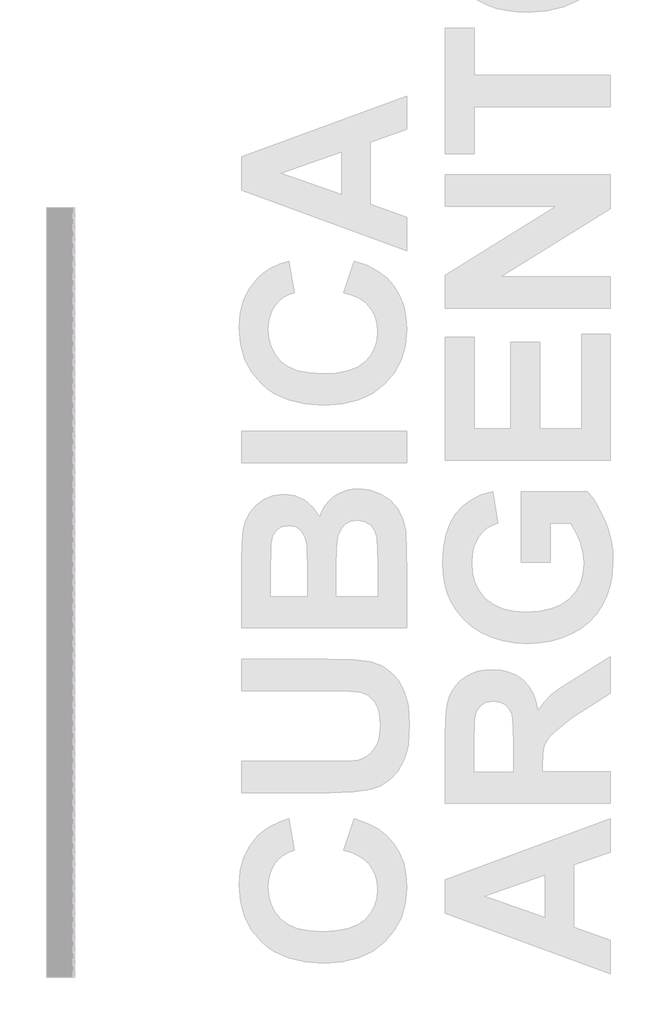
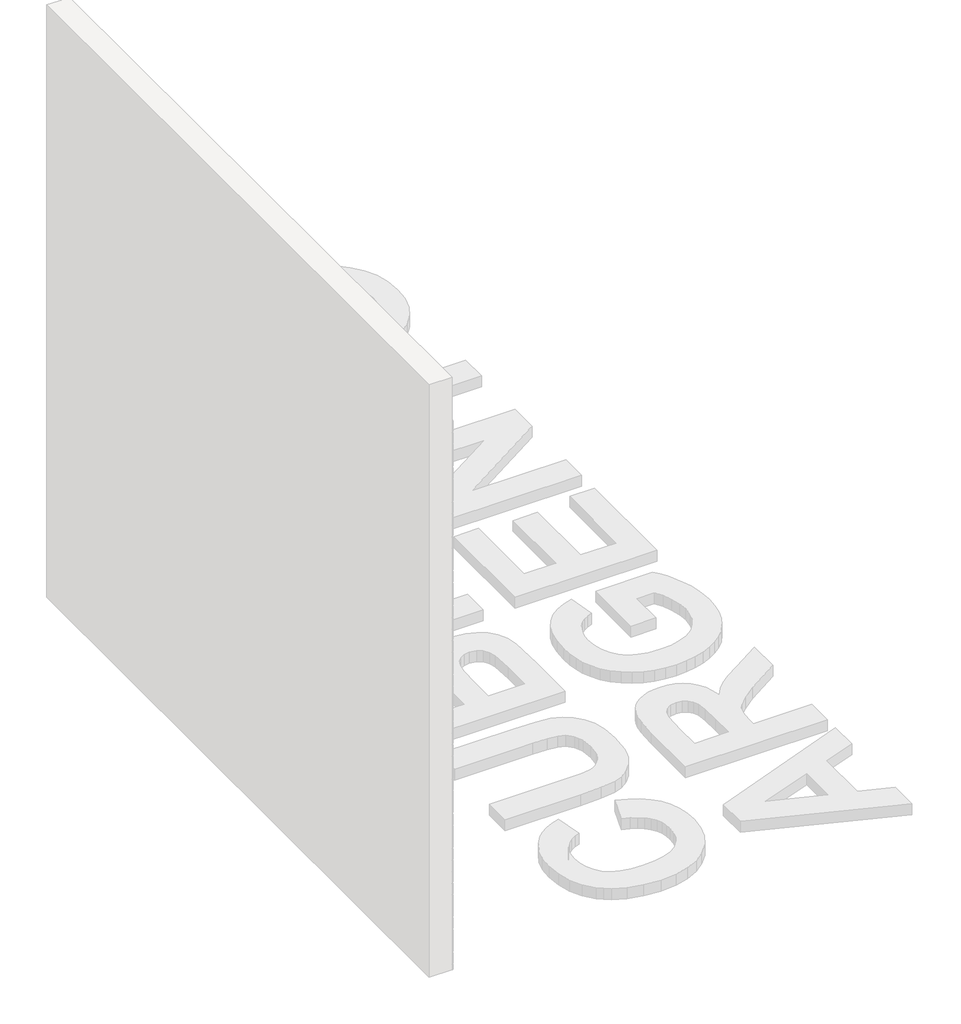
# One storey, part 5 of 121: 145 proxies.
"""IFC4 building model written with IfcOpenShell, lengths in millimetres."""

from ifc_helpers import new_model, si_unit, origin, place, context, project, spatial, transform, mapped, element, save
from components import generic_models_b2b2c5c1, generic_models_9bf73f6f, generic_models_5d175859, generic_models_95f85f1d

model = new_model("IFC4")

# Units and contexts
model_context = context("Model", 3, world=origin())
ifc_project = project(units=[si_unit("LENGTHUNIT", "METRE", prefix="MILLI")], contexts=[model_context])

# Site, building, storey
site = spatial("IfcSite", under=ifc_project)
building = spatial("IfcBuilding", under=site)
storey = spatial("IfcBuildingStorey", under=building, Name="PORTOBELLO - SHOWROOM", Elevation=0.0)

# Proxies
placement = place(None, origin())
generic_models_shape = generic_models_b2b2c5c1(model_context)
element("IfcBuildingElementProxy", 1, Name="PBSHOP - CUBICA ARGENTO 4,8X8,3 : CUBICA ARGENTO - POSIÇÃO 01", ObjectType="PBSHOP - CUBICA ARGENTO 4,8X8,3 : CUBICA ARGENTO - POSIÇÃO 01", at=placement, inside=storey, context=model_context, shape_type="MappedRepresentation", body=[
    mapped(generic_models_shape, transform((150369.5341846, -5994.6755428, 118.3568052), x_axis=(0.0, 1.0, 0.0), y_axis=(0.0, 0.0, 1.0), z_axis=(1.0, 0.0, 0.0))),
])
element("IfcBuildingElementProxy", 2, Name="PBSHOP - CUBICA ARGENTO 4,8X8,3 : CUBICA ARGENTO - POSIÇÃO 01", ObjectType="PBSHOP - CUBICA ARGENTO 4,8X8,3 : CUBICA ARGENTO - POSIÇÃO 01", at=placement, inside=storey, context=model_context, shape_type="MappedRepresentation", body=[
    mapped(generic_models_shape, transform((150369.5341846, -5903.8362736, 118.3568052), x_axis=(0.0, 1.0, 0.0), y_axis=(0.0, 0.0, 1.0), z_axis=(1.0, 0.0, 0.0))),
])
element("IfcBuildingElementProxy", 3, Name="PBSHOP - CUBICA ARGENTO 4,8X8,3 : CUBICA ARGENTO - POSIÇÃO 01", ObjectType="PBSHOP - CUBICA ARGENTO 4,8X8,3 : CUBICA ARGENTO - POSIÇÃO 01", at=placement, inside=storey, context=model_context, shape_type="MappedRepresentation", body=[
    mapped(generic_models_shape, transform((150369.5341846, -5812.9970043, 118.3568052), x_axis=(0.0, 1.0, 0.0), y_axis=(0.0, 0.0, 1.0), z_axis=(1.0, 0.0, 0.0))),
])
element("IfcBuildingElementProxy", 4, Name="PBSHOP - CUBICA ARGENTO 4,8X8,3 : CUBICA ARGENTO - POSIÇÃO 01", ObjectType="PBSHOP - CUBICA ARGENTO 4,8X8,3 : CUBICA ARGENTO - POSIÇÃO 01", at=placement, inside=storey, context=model_context, shape_type="MappedRepresentation", body=[
    mapped(generic_models_shape, transform((150369.5341846, -5722.1577351, 118.3568052), x_axis=(0.0, 1.0, 0.0), y_axis=(0.0, 0.0, 1.0), z_axis=(1.0, 0.0, 0.0))),
])
element("IfcBuildingElementProxy", 5, Name="PBSHOP - CUBICA ARGENTO 4,8X8,3 : CUBICA ARGENTO - POSIÇÃO 01", ObjectType="PBSHOP - CUBICA ARGENTO 4,8X8,3 : CUBICA ARGENTO - POSIÇÃO 01", at=placement, inside=storey, context=model_context, shape_type="MappedRepresentation", body=[
    mapped(generic_models_shape, transform((150369.5341846, -5631.3184659, 118.3568052), x_axis=(0.0, 1.0, 0.0), y_axis=(0.0, 0.0, 1.0), z_axis=(1.0, 0.0, 0.0))),
])
element("IfcBuildingElementProxy", 6, Name="PBSHOP - CUBICA ARGENTO 4,8X8,3 : CUBICA ARGENTO - POSIÇÃO 01", ObjectType="PBSHOP - CUBICA ARGENTO 4,8X8,3 : CUBICA ARGENTO - POSIÇÃO 01", at=placement, inside=storey, context=model_context, shape_type="MappedRepresentation", body=[
    mapped(generic_models_shape, transform((150369.5341846, -5540.4791966, 118.3568052), x_axis=(0.0, 1.0, 0.0), y_axis=(0.0, 0.0, 1.0), z_axis=(1.0, 0.0, 0.0))),
])
element("IfcBuildingElementProxy", 7, Name="PBSHOP - CUBICA ARGENTO 4,8X8,3 : CUBICA ARGENTO - POSIÇÃO 01", ObjectType="PBSHOP - CUBICA ARGENTO 4,8X8,3 : CUBICA ARGENTO - POSIÇÃO 01", at=placement, inside=storey, context=model_context, shape_type="MappedRepresentation", body=[
    mapped(generic_models_shape, transform((150369.5341846, -5449.6399274, 118.3568052), x_axis=(0.0, 1.0, 0.0), y_axis=(0.0, 0.0, 1.0), z_axis=(1.0, 0.0, 0.0))),
])
element("IfcBuildingElementProxy", 8, Name="PBSHOP - CUBICA ARGENTO 4,8X8,3 : CUBICA ARGENTO - POSIÇÃO 01", ObjectType="PBSHOP - CUBICA ARGENTO 4,8X8,3 : CUBICA ARGENTO - POSIÇÃO 01", at=placement, inside=storey, context=model_context, shape_type="MappedRepresentation", body=[
    mapped(generic_models_shape, transform((150369.5341846, -5358.8006581, 118.3568052), x_axis=(0.0, 1.0, 0.0), y_axis=(0.0, 0.0, 1.0), z_axis=(1.0, 0.0, 0.0))),
])
element("IfcBuildingElementProxy", 9, Name="PBSHOP - CUBICA ARGENTO 4,8X8,3 : CUBICA ARGENTO - POSIÇÃO 01", ObjectType="PBSHOP - CUBICA ARGENTO 4,8X8,3 : CUBICA ARGENTO - POSIÇÃO 01", at=placement, inside=storey, context=model_context, shape_type="MappedRepresentation", body=[
    mapped(generic_models_shape, transform((150369.5341846, -5267.9613889, 118.3568052), x_axis=(0.0, 1.0, 0.0), y_axis=(0.0, 0.0, 1.0), z_axis=(1.0, 0.0, 0.0))),
])
element("IfcBuildingElementProxy", 10, Name="PBSHOP - CUBICA ARGENTO 4,8X8,3 : CUBICA ARGENTO - POSIÇÃO 01", ObjectType="PBSHOP - CUBICA ARGENTO 4,8X8,3 : CUBICA ARGENTO - POSIÇÃO 01", at=placement, inside=storey, context=model_context, shape_type="MappedRepresentation", body=[
    mapped(generic_models_shape, transform((150369.5341846, -5177.1221196, 118.3568052), x_axis=(0.0, 1.0, 0.0), y_axis=(0.0, 0.0, 1.0), z_axis=(1.0, 0.0, 0.0))),
])
element("IfcBuildingElementProxy", 11, Name="PBSHOP - CUBICA ARGENTO 4,8X8,3 : CUBICA ARGENTO - POSIÇÃO 01", ObjectType="PBSHOP - CUBICA ARGENTO 4,8X8,3 : CUBICA ARGENTO - POSIÇÃO 01", at=placement, inside=storey, context=model_context, shape_type="MappedRepresentation", body=[
    mapped(generic_models_shape, transform((150369.5341846, -5086.2828504, 118.3568052), x_axis=(0.0, 1.0, 0.0), y_axis=(0.0, 0.0, 1.0), z_axis=(1.0, 0.0, 0.0))),
])
element("IfcBuildingElementProxy", 12, Name="PBSHOP - CUBICA ARGENTO 4,8X8,3 : CUBICA ARGENTO - POSIÇÃO 01", ObjectType="PBSHOP - CUBICA ARGENTO 4,8X8,3 : CUBICA ARGENTO - POSIÇÃO 01", at=placement, inside=storey, context=model_context, shape_type="MappedRepresentation", body=[
    mapped(generic_models_shape, transform((150369.5341846, -5949.2559082, 197.2914436), x_axis=(0.0, 1.0, 0.0), y_axis=(0.0, 0.0, 1.0), z_axis=(1.0, 0.0, 0.0))),
])
element("IfcBuildingElementProxy", 13, Name="PBSHOP - CUBICA ARGENTO 4,8X8,3 : CUBICA ARGENTO - POSIÇÃO 01", ObjectType="PBSHOP - CUBICA ARGENTO 4,8X8,3 : CUBICA ARGENTO - POSIÇÃO 01", at=placement, inside=storey, context=model_context, shape_type="MappedRepresentation", body=[
    mapped(generic_models_shape, transform((150369.5341846, -5858.416639, 197.2914436), x_axis=(0.0, 1.0, 0.0), y_axis=(0.0, 0.0, 1.0), z_axis=(1.0, 0.0, 0.0))),
])
element("IfcBuildingElementProxy", 14, Name="PBSHOP - CUBICA ARGENTO 4,8X8,3 : CUBICA ARGENTO - POSIÇÃO 01", ObjectType="PBSHOP - CUBICA ARGENTO 4,8X8,3 : CUBICA ARGENTO - POSIÇÃO 01", at=placement, inside=storey, context=model_context, shape_type="MappedRepresentation", body=[
    mapped(generic_models_shape, transform((150369.5341846, -5767.5773697, 197.2914436), x_axis=(0.0, 1.0, 0.0), y_axis=(0.0, 0.0, 1.0), z_axis=(1.0, 0.0, 0.0))),
])
element("IfcBuildingElementProxy", 15, Name="PBSHOP - CUBICA ARGENTO 4,8X8,3 : CUBICA ARGENTO - POSIÇÃO 01", ObjectType="PBSHOP - CUBICA ARGENTO 4,8X8,3 : CUBICA ARGENTO - POSIÇÃO 01", at=placement, inside=storey, context=model_context, shape_type="MappedRepresentation", body=[
    mapped(generic_models_shape, transform((150369.5341846, -5676.7381005, 197.2914436), x_axis=(0.0, 1.0, 0.0), y_axis=(0.0, 0.0, 1.0), z_axis=(1.0, 0.0, 0.0))),
])
element("IfcBuildingElementProxy", 16, Name="PBSHOP - CUBICA ARGENTO 4,8X8,3 : CUBICA ARGENTO - POSIÇÃO 01", ObjectType="PBSHOP - CUBICA ARGENTO 4,8X8,3 : CUBICA ARGENTO - POSIÇÃO 01", at=placement, inside=storey, context=model_context, shape_type="MappedRepresentation", body=[
    mapped(generic_models_shape, transform((150369.5341846, -5585.8988312, 197.2914436), x_axis=(0.0, 1.0, 0.0), y_axis=(0.0, 0.0, 1.0), z_axis=(1.0, 0.0, 0.0))),
])
element("IfcBuildingElementProxy", 17, Name="PBSHOP - CUBICA ARGENTO 4,8X8,3 : CUBICA ARGENTO - POSIÇÃO 01", ObjectType="PBSHOP - CUBICA ARGENTO 4,8X8,3 : CUBICA ARGENTO - POSIÇÃO 01", at=placement, inside=storey, context=model_context, shape_type="MappedRepresentation", body=[
    mapped(generic_models_shape, transform((150369.5341846, -5495.059562, 197.2914436), x_axis=(0.0, 1.0, 0.0), y_axis=(0.0, 0.0, 1.0), z_axis=(1.0, 0.0, 0.0))),
])
element("IfcBuildingElementProxy", 18, Name="PBSHOP - CUBICA ARGENTO 4,8X8,3 : CUBICA ARGENTO - POSIÇÃO 01", ObjectType="PBSHOP - CUBICA ARGENTO 4,8X8,3 : CUBICA ARGENTO - POSIÇÃO 01", at=placement, inside=storey, context=model_context, shape_type="MappedRepresentation", body=[
    mapped(generic_models_shape, transform((150369.5341846, -5404.2202927, 197.2914436), x_axis=(0.0, 1.0, 0.0), y_axis=(0.0, 0.0, 1.0), z_axis=(1.0, 0.0, 0.0))),
])
element("IfcBuildingElementProxy", 19, Name="PBSHOP - CUBICA ARGENTO 4,8X8,3 : CUBICA ARGENTO - POSIÇÃO 01", ObjectType="PBSHOP - CUBICA ARGENTO 4,8X8,3 : CUBICA ARGENTO - POSIÇÃO 01", at=placement, inside=storey, context=model_context, shape_type="MappedRepresentation", body=[
    mapped(generic_models_shape, transform((150369.5341846, -5313.3810235, 197.2914436), x_axis=(0.0, 1.0, 0.0), y_axis=(0.0, 0.0, 1.0), z_axis=(1.0, 0.0, 0.0))),
])
element("IfcBuildingElementProxy", 20, Name="PBSHOP - CUBICA ARGENTO 4,8X8,3 : CUBICA ARGENTO - POSIÇÃO 01", ObjectType="PBSHOP - CUBICA ARGENTO 4,8X8,3 : CUBICA ARGENTO - POSIÇÃO 01", at=placement, inside=storey, context=model_context, shape_type="MappedRepresentation", body=[
    mapped(generic_models_shape, transform((150369.5341846, -5222.5417543, 197.2914436), x_axis=(0.0, 1.0, 0.0), y_axis=(0.0, 0.0, 1.0), z_axis=(1.0, 0.0, 0.0))),
])
element("IfcBuildingElementProxy", 21, Name="PBSHOP - CUBICA ARGENTO 4,8X8,3 : CUBICA ARGENTO - POSIÇÃO 01", ObjectType="PBSHOP - CUBICA ARGENTO 4,8X8,3 : CUBICA ARGENTO - POSIÇÃO 01", at=placement, inside=storey, context=model_context, shape_type="MappedRepresentation", body=[
    mapped(generic_models_shape, transform((150369.5341846, -5131.702485, 197.2914436), x_axis=(0.0, 1.0, 0.0), y_axis=(0.0, 0.0, 1.0), z_axis=(1.0, 0.0, 0.0))),
])
element("IfcBuildingElementProxy", 22, Name="PBSHOP - CUBICA ARGENTO 4,8X8,3 : CUBICA ARGENTO - POSIÇÃO 01", ObjectType="PBSHOP - CUBICA ARGENTO 4,8X8,3 : CUBICA ARGENTO - POSIÇÃO 01", at=placement, inside=storey, context=model_context, shape_type="MappedRepresentation", body=[
    mapped(generic_models_shape, transform((150369.5341846, -5040.8632158, 197.2914436), x_axis=(0.0, 1.0, 0.0), y_axis=(0.0, 0.0, 1.0), z_axis=(1.0, 0.0, 0.0))),
])
element("IfcBuildingElementProxy", 23, Name="PBSHOP - CUBICA ARGENTO 4,8X8,3 : CUBICA ARGENTO - POSIÇÃO 01", ObjectType="PBSHOP - CUBICA ARGENTO 4,8X8,3 : CUBICA ARGENTO - POSIÇÃO 01", at=placement, inside=storey, context=model_context, shape_type="MappedRepresentation", body=[
    mapped(generic_models_shape, transform((150369.5341846, -5994.6755428, 276.2260819), x_axis=(0.0, 1.0, 0.0), y_axis=(0.0, 0.0, 1.0), z_axis=(1.0, 0.0, 0.0))),
])
element("IfcBuildingElementProxy", 24, Name="PBSHOP - CUBICA ARGENTO 4,8X8,3 : CUBICA ARGENTO - POSIÇÃO 01", ObjectType="PBSHOP - CUBICA ARGENTO 4,8X8,3 : CUBICA ARGENTO - POSIÇÃO 01", at=placement, inside=storey, context=model_context, shape_type="MappedRepresentation", body=[
    mapped(generic_models_shape, transform((150369.5341846, -5903.8362736, 276.2260819), x_axis=(0.0, 1.0, 0.0), y_axis=(0.0, 0.0, 1.0), z_axis=(1.0, 0.0, 0.0))),
])
element("IfcBuildingElementProxy", 25, Name="PBSHOP - CUBICA ARGENTO 4,8X8,3 : CUBICA ARGENTO - POSIÇÃO 01", ObjectType="PBSHOP - CUBICA ARGENTO 4,8X8,3 : CUBICA ARGENTO - POSIÇÃO 01", at=placement, inside=storey, context=model_context, shape_type="MappedRepresentation", body=[
    mapped(generic_models_shape, transform((150369.5341846, -5812.9970043, 276.2260819), x_axis=(0.0, 1.0, 0.0), y_axis=(0.0, 0.0, 1.0), z_axis=(1.0, 0.0, 0.0))),
])
element("IfcBuildingElementProxy", 26, Name="PBSHOP - CUBICA ARGENTO 4,8X8,3 : CUBICA ARGENTO - POSIÇÃO 01", ObjectType="PBSHOP - CUBICA ARGENTO 4,8X8,3 : CUBICA ARGENTO - POSIÇÃO 01", at=placement, inside=storey, context=model_context, shape_type="MappedRepresentation", body=[
    mapped(generic_models_shape, transform((150369.5341846, -5722.1577351, 276.2260819), x_axis=(0.0, 1.0, 0.0), y_axis=(0.0, 0.0, 1.0), z_axis=(1.0, 0.0, 0.0))),
])
element("IfcBuildingElementProxy", 27, Name="PBSHOP - CUBICA ARGENTO 4,8X8,3 : CUBICA ARGENTO - POSIÇÃO 01", ObjectType="PBSHOP - CUBICA ARGENTO 4,8X8,3 : CUBICA ARGENTO - POSIÇÃO 01", at=placement, inside=storey, context=model_context, shape_type="MappedRepresentation", body=[
    mapped(generic_models_shape, transform((150369.5341846, -5631.3184659, 276.2260819), x_axis=(0.0, 1.0, 0.0), y_axis=(0.0, 0.0, 1.0), z_axis=(1.0, 0.0, 0.0))),
])
element("IfcBuildingElementProxy", 28, Name="PBSHOP - CUBICA ARGENTO 4,8X8,3 : CUBICA ARGENTO - POSIÇÃO 01", ObjectType="PBSHOP - CUBICA ARGENTO 4,8X8,3 : CUBICA ARGENTO - POSIÇÃO 01", at=placement, inside=storey, context=model_context, shape_type="MappedRepresentation", body=[
    mapped(generic_models_shape, transform((150369.5341846, -5540.4791966, 276.2260819), x_axis=(0.0, 1.0, 0.0), y_axis=(0.0, 0.0, 1.0), z_axis=(1.0, 0.0, 0.0))),
])
element("IfcBuildingElementProxy", 29, Name="PBSHOP - CUBICA ARGENTO 4,8X8,3 : CUBICA ARGENTO - POSIÇÃO 01", ObjectType="PBSHOP - CUBICA ARGENTO 4,8X8,3 : CUBICA ARGENTO - POSIÇÃO 01", at=placement, inside=storey, context=model_context, shape_type="MappedRepresentation", body=[
    mapped(generic_models_shape, transform((150369.5341846, -5449.6399274, 276.2260819), x_axis=(0.0, 1.0, 0.0), y_axis=(0.0, 0.0, 1.0), z_axis=(1.0, 0.0, 0.0))),
])
element("IfcBuildingElementProxy", 30, Name="PBSHOP - CUBICA ARGENTO 4,8X8,3 : CUBICA ARGENTO - POSIÇÃO 01", ObjectType="PBSHOP - CUBICA ARGENTO 4,8X8,3 : CUBICA ARGENTO - POSIÇÃO 01", at=placement, inside=storey, context=model_context, shape_type="MappedRepresentation", body=[
    mapped(generic_models_shape, transform((150369.5341846, -5358.8006581, 276.2260819), x_axis=(0.0, 1.0, 0.0), y_axis=(0.0, 0.0, 1.0), z_axis=(1.0, 0.0, 0.0))),
])
element("IfcBuildingElementProxy", 31, Name="PBSHOP - CUBICA ARGENTO 4,8X8,3 : CUBICA ARGENTO - POSIÇÃO 01", ObjectType="PBSHOP - CUBICA ARGENTO 4,8X8,3 : CUBICA ARGENTO - POSIÇÃO 01", at=placement, inside=storey, context=model_context, shape_type="MappedRepresentation", body=[
    mapped(generic_models_shape, transform((150369.5341846, -5267.9613889, 276.2260819), x_axis=(0.0, 1.0, 0.0), y_axis=(0.0, 0.0, 1.0), z_axis=(1.0, 0.0, 0.0))),
])
element("IfcBuildingElementProxy", 32, Name="PBSHOP - CUBICA ARGENTO 4,8X8,3 : CUBICA ARGENTO - POSIÇÃO 01", ObjectType="PBSHOP - CUBICA ARGENTO 4,8X8,3 : CUBICA ARGENTO - POSIÇÃO 01", at=placement, inside=storey, context=model_context, shape_type="MappedRepresentation", body=[
    mapped(generic_models_shape, transform((150369.5341846, -5177.1221196, 276.2260819), x_axis=(0.0, 1.0, 0.0), y_axis=(0.0, 0.0, 1.0), z_axis=(1.0, 0.0, 0.0))),
])
element("IfcBuildingElementProxy", 33, Name="PBSHOP - CUBICA ARGENTO 4,8X8,3 : CUBICA ARGENTO - POSIÇÃO 01", ObjectType="PBSHOP - CUBICA ARGENTO 4,8X8,3 : CUBICA ARGENTO - POSIÇÃO 01", at=placement, inside=storey, context=model_context, shape_type="MappedRepresentation", body=[
    mapped(generic_models_shape, transform((150369.5341846, -5086.2828504, 276.2260819), x_axis=(0.0, 1.0, 0.0), y_axis=(0.0, 0.0, 1.0), z_axis=(1.0, 0.0, 0.0))),
])
element("IfcBuildingElementProxy", 34, Name="PBSHOP - CUBICA ARGENTO 4,8X8,3 : CUBICA ARGENTO - POSIÇÃO 01", ObjectType="PBSHOP - CUBICA ARGENTO 4,8X8,3 : CUBICA ARGENTO - POSIÇÃO 01", at=placement, inside=storey, context=model_context, shape_type="MappedRepresentation", body=[
    mapped(generic_models_shape, transform((150369.5341846, -5949.2559082, 355.1607203), x_axis=(0.0, 1.0, 0.0), y_axis=(0.0, 0.0, 1.0), z_axis=(1.0, 0.0, 0.0))),
])
element("IfcBuildingElementProxy", 35, Name="PBSHOP - CUBICA ARGENTO 4,8X8,3 : CUBICA ARGENTO - POSIÇÃO 01", ObjectType="PBSHOP - CUBICA ARGENTO 4,8X8,3 : CUBICA ARGENTO - POSIÇÃO 01", at=placement, inside=storey, context=model_context, shape_type="MappedRepresentation", body=[
    mapped(generic_models_shape, transform((150369.5341846, -5858.416639, 355.1607203), x_axis=(0.0, 1.0, 0.0), y_axis=(0.0, 0.0, 1.0), z_axis=(1.0, 0.0, 0.0))),
])
element("IfcBuildingElementProxy", 36, Name="PBSHOP - CUBICA ARGENTO 4,8X8,3 : CUBICA ARGENTO - POSIÇÃO 01", ObjectType="PBSHOP - CUBICA ARGENTO 4,8X8,3 : CUBICA ARGENTO - POSIÇÃO 01", at=placement, inside=storey, context=model_context, shape_type="MappedRepresentation", body=[
    mapped(generic_models_shape, transform((150369.5341846, -5767.5773697, 355.1607203), x_axis=(0.0, 1.0, 0.0), y_axis=(0.0, 0.0, 1.0), z_axis=(1.0, 0.0, 0.0))),
])
element("IfcBuildingElementProxy", 37, Name="PBSHOP - CUBICA ARGENTO 4,8X8,3 : CUBICA ARGENTO - POSIÇÃO 01", ObjectType="PBSHOP - CUBICA ARGENTO 4,8X8,3 : CUBICA ARGENTO - POSIÇÃO 01", at=placement, inside=storey, context=model_context, shape_type="MappedRepresentation", body=[
    mapped(generic_models_shape, transform((150369.5341846, -5676.7381005, 355.1607203), x_axis=(0.0, 1.0, 0.0), y_axis=(0.0, 0.0, 1.0), z_axis=(1.0, 0.0, 0.0))),
])
element("IfcBuildingElementProxy", 38, Name="PBSHOP - CUBICA ARGENTO 4,8X8,3 : CUBICA ARGENTO - POSIÇÃO 01", ObjectType="PBSHOP - CUBICA ARGENTO 4,8X8,3 : CUBICA ARGENTO - POSIÇÃO 01", at=placement, inside=storey, context=model_context, shape_type="MappedRepresentation", body=[
    mapped(generic_models_shape, transform((150369.5341846, -5585.8988312, 355.1607203), x_axis=(0.0, 1.0, 0.0), y_axis=(0.0, 0.0, 1.0), z_axis=(1.0, 0.0, 0.0))),
])
element("IfcBuildingElementProxy", 39, Name="PBSHOP - CUBICA ARGENTO 4,8X8,3 : CUBICA ARGENTO - POSIÇÃO 01", ObjectType="PBSHOP - CUBICA ARGENTO 4,8X8,3 : CUBICA ARGENTO - POSIÇÃO 01", at=placement, inside=storey, context=model_context, shape_type="MappedRepresentation", body=[
    mapped(generic_models_shape, transform((150369.5341846, -5495.059562, 355.1607203), x_axis=(0.0, 1.0, 0.0), y_axis=(0.0, 0.0, 1.0), z_axis=(1.0, 0.0, 0.0))),
])
element("IfcBuildingElementProxy", 40, Name="PBSHOP - CUBICA ARGENTO 4,8X8,3 : CUBICA ARGENTO - POSIÇÃO 01", ObjectType="PBSHOP - CUBICA ARGENTO 4,8X8,3 : CUBICA ARGENTO - POSIÇÃO 01", at=placement, inside=storey, context=model_context, shape_type="MappedRepresentation", body=[
    mapped(generic_models_shape, transform((150369.5341846, -5404.2202927, 355.1607203), x_axis=(0.0, 1.0, 0.0), y_axis=(0.0, 0.0, 1.0), z_axis=(1.0, 0.0, 0.0))),
])
element("IfcBuildingElementProxy", 41, Name="PBSHOP - CUBICA ARGENTO 4,8X8,3 : CUBICA ARGENTO - POSIÇÃO 01", ObjectType="PBSHOP - CUBICA ARGENTO 4,8X8,3 : CUBICA ARGENTO - POSIÇÃO 01", at=placement, inside=storey, context=model_context, shape_type="MappedRepresentation", body=[
    mapped(generic_models_shape, transform((150369.5341846, -5313.3810235, 355.1607203), x_axis=(0.0, 1.0, 0.0), y_axis=(0.0, 0.0, 1.0), z_axis=(1.0, 0.0, 0.0))),
])
element("IfcBuildingElementProxy", 42, Name="PBSHOP - CUBICA ARGENTO 4,8X8,3 : CUBICA ARGENTO - POSIÇÃO 01", ObjectType="PBSHOP - CUBICA ARGENTO 4,8X8,3 : CUBICA ARGENTO - POSIÇÃO 01", at=placement, inside=storey, context=model_context, shape_type="MappedRepresentation", body=[
    mapped(generic_models_shape, transform((150369.5341846, -5222.5417543, 355.1607203), x_axis=(0.0, 1.0, 0.0), y_axis=(0.0, 0.0, 1.0), z_axis=(1.0, 0.0, 0.0))),
])
element("IfcBuildingElementProxy", 43, Name="PBSHOP - CUBICA ARGENTO 4,8X8,3 : CUBICA ARGENTO - POSIÇÃO 01", ObjectType="PBSHOP - CUBICA ARGENTO 4,8X8,3 : CUBICA ARGENTO - POSIÇÃO 01", at=placement, inside=storey, context=model_context, shape_type="MappedRepresentation", body=[
    mapped(generic_models_shape, transform((150369.5341846, -5131.702485, 355.1607203), x_axis=(0.0, 1.0, 0.0), y_axis=(0.0, 0.0, 1.0), z_axis=(1.0, 0.0, 0.0))),
])
element("IfcBuildingElementProxy", 44, Name="PBSHOP - CUBICA ARGENTO 4,8X8,3 : CUBICA ARGENTO - POSIÇÃO 01", ObjectType="PBSHOP - CUBICA ARGENTO 4,8X8,3 : CUBICA ARGENTO - POSIÇÃO 01", at=placement, inside=storey, context=model_context, shape_type="MappedRepresentation", body=[
    mapped(generic_models_shape, transform((150369.5341846, -5040.8632158, 355.1607203), x_axis=(0.0, 1.0, 0.0), y_axis=(0.0, 0.0, 1.0), z_axis=(1.0, 0.0, 0.0))),
])
element("IfcBuildingElementProxy", 45, Name="PBSHOP - CUBICA ARGENTO 4,8X8,3 : CUBICA ARGENTO - POSIÇÃO 01", ObjectType="PBSHOP - CUBICA ARGENTO 4,8X8,3 : CUBICA ARGENTO - POSIÇÃO 01", at=placement, inside=storey, context=model_context, shape_type="MappedRepresentation", body=[
    mapped(generic_models_shape, transform((150369.5341846, -5994.6755428, 434.0953587), x_axis=(0.0, 1.0, 0.0), y_axis=(0.0, 0.0, 1.0), z_axis=(1.0, 0.0, 0.0))),
])
element("IfcBuildingElementProxy", 46, Name="PBSHOP - CUBICA ARGENTO 4,8X8,3 : CUBICA ARGENTO - POSIÇÃO 01", ObjectType="PBSHOP - CUBICA ARGENTO 4,8X8,3 : CUBICA ARGENTO - POSIÇÃO 01", at=placement, inside=storey, context=model_context, shape_type="MappedRepresentation", body=[
    mapped(generic_models_shape, transform((150369.5341846, -5903.8362736, 434.0953587), x_axis=(0.0, 1.0, 0.0), y_axis=(0.0, 0.0, 1.0), z_axis=(1.0, 0.0, 0.0))),
])
element("IfcBuildingElementProxy", 47, Name="PBSHOP - CUBICA ARGENTO 4,8X8,3 : CUBICA ARGENTO - POSIÇÃO 01", ObjectType="PBSHOP - CUBICA ARGENTO 4,8X8,3 : CUBICA ARGENTO - POSIÇÃO 01", at=placement, inside=storey, context=model_context, shape_type="MappedRepresentation", body=[
    mapped(generic_models_shape, transform((150369.5341846, -5812.9970043, 434.0953587), x_axis=(0.0, 1.0, 0.0), y_axis=(0.0, 0.0, 1.0), z_axis=(1.0, 0.0, 0.0))),
])
element("IfcBuildingElementProxy", 48, Name="PBSHOP - CUBICA ARGENTO 4,8X8,3 : CUBICA ARGENTO - POSIÇÃO 01", ObjectType="PBSHOP - CUBICA ARGENTO 4,8X8,3 : CUBICA ARGENTO - POSIÇÃO 01", at=placement, inside=storey, context=model_context, shape_type="MappedRepresentation", body=[
    mapped(generic_models_shape, transform((150369.5341846, -5722.1577351, 434.0953587), x_axis=(0.0, 1.0, 0.0), y_axis=(0.0, 0.0, 1.0), z_axis=(1.0, 0.0, 0.0))),
])
element("IfcBuildingElementProxy", 49, Name="PBSHOP - CUBICA ARGENTO 4,8X8,3 : CUBICA ARGENTO - POSIÇÃO 01", ObjectType="PBSHOP - CUBICA ARGENTO 4,8X8,3 : CUBICA ARGENTO - POSIÇÃO 01", at=placement, inside=storey, context=model_context, shape_type="MappedRepresentation", body=[
    mapped(generic_models_shape, transform((150369.5341846, -5631.3184659, 434.0953587), x_axis=(0.0, 1.0, 0.0), y_axis=(0.0, 0.0, 1.0), z_axis=(1.0, 0.0, 0.0))),
])
generic_models_2_shape = generic_models_9bf73f6f(model_context)
element("IfcBuildingElementProxy", 50, Name="PBSHOP - CUBICA ARGENTO 4,8X8,3 : CUBICA ARGENTO - POSIÇÃO 03", ObjectType="PBSHOP - CUBICA ARGENTO 4,8X8,3 : CUBICA ARGENTO - POSIÇÃO 03", at=placement, inside=storey, context=model_context, shape_type="MappedRepresentation", body=[
    mapped(generic_models_2_shape, transform((150369.5341846, -5926.5439317, 78.8482756), x_axis=(0.0, 1.0, 0.0), y_axis=(0.0, 0.0, 1.0), z_axis=(1.0, 0.0, 0.0))),
])
element("IfcBuildingElementProxy", 51, Name="PBSHOP - CUBICA ARGENTO 4,8X8,3 : CUBICA ARGENTO - POSIÇÃO 03", ObjectType="PBSHOP - CUBICA ARGENTO 4,8X8,3 : CUBICA ARGENTO - POSIÇÃO 03", at=placement, inside=storey, context=model_context, shape_type="MappedRepresentation", body=[
    mapped(generic_models_2_shape, transform((150369.5341846, -5835.7046625, 78.8482756), x_axis=(0.0, 1.0, 0.0), y_axis=(0.0, 0.0, 1.0), z_axis=(1.0, 0.0, 0.0))),
])
element("IfcBuildingElementProxy", 52, Name="PBSHOP - CUBICA ARGENTO 4,8X8,3 : CUBICA ARGENTO - POSIÇÃO 03", ObjectType="PBSHOP - CUBICA ARGENTO 4,8X8,3 : CUBICA ARGENTO - POSIÇÃO 03", at=placement, inside=storey, context=model_context, shape_type="MappedRepresentation", body=[
    mapped(generic_models_2_shape, transform((150369.5341846, -5744.8653932, 78.8482756), x_axis=(0.0, 1.0, 0.0), y_axis=(0.0, 0.0, 1.0), z_axis=(1.0, 0.0, 0.0))),
])
element("IfcBuildingElementProxy", 53, Name="PBSHOP - CUBICA ARGENTO 4,8X8,3 : CUBICA ARGENTO - POSIÇÃO 03", ObjectType="PBSHOP - CUBICA ARGENTO 4,8X8,3 : CUBICA ARGENTO - POSIÇÃO 03", at=placement, inside=storey, context=model_context, shape_type="MappedRepresentation", body=[
    mapped(generic_models_2_shape, transform((150369.5341846, -5654.026124, 78.8482756), x_axis=(0.0, 1.0, 0.0), y_axis=(0.0, 0.0, 1.0), z_axis=(1.0, 0.0, 0.0))),
])
element("IfcBuildingElementProxy", 54, Name="PBSHOP - CUBICA ARGENTO 4,8X8,3 : CUBICA ARGENTO - POSIÇÃO 03", ObjectType="PBSHOP - CUBICA ARGENTO 4,8X8,3 : CUBICA ARGENTO - POSIÇÃO 03", at=placement, inside=storey, context=model_context, shape_type="MappedRepresentation", body=[
    mapped(generic_models_2_shape, transform((150369.5341846, -5563.1868548, 78.8482756), x_axis=(0.0, 1.0, 0.0), y_axis=(0.0, 0.0, 1.0), z_axis=(1.0, 0.0, 0.0))),
])
element("IfcBuildingElementProxy", 55, Name="PBSHOP - CUBICA ARGENTO 4,8X8,3 : CUBICA ARGENTO - POSIÇÃO 03", ObjectType="PBSHOP - CUBICA ARGENTO 4,8X8,3 : CUBICA ARGENTO - POSIÇÃO 03", at=placement, inside=storey, context=model_context, shape_type="MappedRepresentation", body=[
    mapped(generic_models_2_shape, transform((150369.5341846, -5472.3475855, 78.8482756), x_axis=(0.0, 1.0, 0.0), y_axis=(0.0, 0.0, 1.0), z_axis=(1.0, 0.0, 0.0))),
])
element("IfcBuildingElementProxy", 56, Name="PBSHOP - CUBICA ARGENTO 4,8X8,3 : CUBICA ARGENTO - POSIÇÃO 03", ObjectType="PBSHOP - CUBICA ARGENTO 4,8X8,3 : CUBICA ARGENTO - POSIÇÃO 03", at=placement, inside=storey, context=model_context, shape_type="MappedRepresentation", body=[
    mapped(generic_models_2_shape, transform((150369.5341846, -5381.5083163, 78.8482756), x_axis=(0.0, 1.0, 0.0), y_axis=(0.0, 0.0, 1.0), z_axis=(1.0, 0.0, 0.0))),
])
element("IfcBuildingElementProxy", 57, Name="PBSHOP - CUBICA ARGENTO 4,8X8,3 : CUBICA ARGENTO - POSIÇÃO 03", ObjectType="PBSHOP - CUBICA ARGENTO 4,8X8,3 : CUBICA ARGENTO - POSIÇÃO 03", at=placement, inside=storey, context=model_context, shape_type="MappedRepresentation", body=[
    mapped(generic_models_2_shape, transform((150369.5341846, -5290.669047, 78.8482756), x_axis=(0.0, 1.0, 0.0), y_axis=(0.0, 0.0, 1.0), z_axis=(1.0, 0.0, 0.0))),
])
element("IfcBuildingElementProxy", 58, Name="PBSHOP - CUBICA ARGENTO 4,8X8,3 : CUBICA ARGENTO - POSIÇÃO 03", ObjectType="PBSHOP - CUBICA ARGENTO 4,8X8,3 : CUBICA ARGENTO - POSIÇÃO 03", at=placement, inside=storey, context=model_context, shape_type="MappedRepresentation", body=[
    mapped(generic_models_2_shape, transform((150369.5341846, -5199.8297778, 78.8482756), x_axis=(0.0, 1.0, 0.0), y_axis=(0.0, 0.0, 1.0), z_axis=(1.0, 0.0, 0.0))),
])
element("IfcBuildingElementProxy", 59, Name="PBSHOP - CUBICA ARGENTO 4,8X8,3 : CUBICA ARGENTO - POSIÇÃO 03", ObjectType="PBSHOP - CUBICA ARGENTO 4,8X8,3 : CUBICA ARGENTO - POSIÇÃO 03", at=placement, inside=storey, context=model_context, shape_type="MappedRepresentation", body=[
    mapped(generic_models_2_shape, transform((150369.5341846, -5108.9905085, 78.8482756), x_axis=(0.0, 1.0, 0.0), y_axis=(0.0, 0.0, 1.0), z_axis=(1.0, 0.0, 0.0))),
])
element("IfcBuildingElementProxy", 60, Name="PBSHOP - CUBICA ARGENTO 4,8X8,3 : CUBICA ARGENTO - POSIÇÃO 03", ObjectType="PBSHOP - CUBICA ARGENTO 4,8X8,3 : CUBICA ARGENTO - POSIÇÃO 03", at=placement, inside=storey, context=model_context, shape_type="MappedRepresentation", body=[
    mapped(generic_models_2_shape, transform((150369.5341846, -5018.1512393, 78.8482756), x_axis=(0.0, 1.0, 0.0), y_axis=(0.0, 0.0, 1.0), z_axis=(1.0, 0.0, 0.0))),
])
element("IfcBuildingElementProxy", 61, Name="PBSHOP - CUBICA ARGENTO 4,8X8,3 : CUBICA ARGENTO - POSIÇÃO 03", ObjectType="PBSHOP - CUBICA ARGENTO 4,8X8,3 : CUBICA ARGENTO - POSIÇÃO 03", at=placement, inside=storey, context=model_context, shape_type="MappedRepresentation", body=[
    mapped(generic_models_2_shape, transform((150369.5341846, -5971.9635664, 157.7829139), x_axis=(0.0, 1.0, 0.0), y_axis=(0.0, 0.0, 1.0), z_axis=(1.0, 0.0, 0.0))),
])
element("IfcBuildingElementProxy", 62, Name="PBSHOP - CUBICA ARGENTO 4,8X8,3 : CUBICA ARGENTO - POSIÇÃO 03", ObjectType="PBSHOP - CUBICA ARGENTO 4,8X8,3 : CUBICA ARGENTO - POSIÇÃO 03", at=placement, inside=storey, context=model_context, shape_type="MappedRepresentation", body=[
    mapped(generic_models_2_shape, transform((150369.5341846, -5881.1242971, 157.7829139), x_axis=(0.0, 1.0, 0.0), y_axis=(0.0, 0.0, 1.0), z_axis=(1.0, 0.0, 0.0))),
])
element("IfcBuildingElementProxy", 63, Name="PBSHOP - CUBICA ARGENTO 4,8X8,3 : CUBICA ARGENTO - POSIÇÃO 03", ObjectType="PBSHOP - CUBICA ARGENTO 4,8X8,3 : CUBICA ARGENTO - POSIÇÃO 03", at=placement, inside=storey, context=model_context, shape_type="MappedRepresentation", body=[
    mapped(generic_models_2_shape, transform((150369.5341846, -5790.2850279, 157.7829139), x_axis=(0.0, 1.0, 0.0), y_axis=(0.0, 0.0, 1.0), z_axis=(1.0, 0.0, 0.0))),
])
element("IfcBuildingElementProxy", 64, Name="PBSHOP - CUBICA ARGENTO 4,8X8,3 : CUBICA ARGENTO - POSIÇÃO 03", ObjectType="PBSHOP - CUBICA ARGENTO 4,8X8,3 : CUBICA ARGENTO - POSIÇÃO 03", at=placement, inside=storey, context=model_context, shape_type="MappedRepresentation", body=[
    mapped(generic_models_2_shape, transform((150369.5341846, -5699.4457586, 157.7829139), x_axis=(0.0, 1.0, 0.0), y_axis=(0.0, 0.0, 1.0), z_axis=(1.0, 0.0, 0.0))),
])
element("IfcBuildingElementProxy", 65, Name="PBSHOP - CUBICA ARGENTO 4,8X8,3 : CUBICA ARGENTO - POSIÇÃO 03", ObjectType="PBSHOP - CUBICA ARGENTO 4,8X8,3 : CUBICA ARGENTO - POSIÇÃO 03", at=placement, inside=storey, context=model_context, shape_type="MappedRepresentation", body=[
    mapped(generic_models_2_shape, transform((150369.5341846, -5608.6064894, 157.7829139), x_axis=(0.0, 1.0, 0.0), y_axis=(0.0, 0.0, 1.0), z_axis=(1.0, 0.0, 0.0))),
])
element("IfcBuildingElementProxy", 66, Name="PBSHOP - CUBICA ARGENTO 4,8X8,3 : CUBICA ARGENTO - POSIÇÃO 03", ObjectType="PBSHOP - CUBICA ARGENTO 4,8X8,3 : CUBICA ARGENTO - POSIÇÃO 03", at=placement, inside=storey, context=model_context, shape_type="MappedRepresentation", body=[
    mapped(generic_models_2_shape, transform((150369.5341846, -5517.7672201, 157.7829139), x_axis=(0.0, 1.0, 0.0), y_axis=(0.0, 0.0, 1.0), z_axis=(1.0, 0.0, 0.0))),
])
element("IfcBuildingElementProxy", 67, Name="PBSHOP - CUBICA ARGENTO 4,8X8,3 : CUBICA ARGENTO - POSIÇÃO 03", ObjectType="PBSHOP - CUBICA ARGENTO 4,8X8,3 : CUBICA ARGENTO - POSIÇÃO 03", at=placement, inside=storey, context=model_context, shape_type="MappedRepresentation", body=[
    mapped(generic_models_2_shape, transform((150369.5341846, -5426.9279509, 157.7829139), x_axis=(0.0, 1.0, 0.0), y_axis=(0.0, 0.0, 1.0), z_axis=(1.0, 0.0, 0.0))),
])
element("IfcBuildingElementProxy", 68, Name="PBSHOP - CUBICA ARGENTO 4,8X8,3 : CUBICA ARGENTO - POSIÇÃO 03", ObjectType="PBSHOP - CUBICA ARGENTO 4,8X8,3 : CUBICA ARGENTO - POSIÇÃO 03", at=placement, inside=storey, context=model_context, shape_type="MappedRepresentation", body=[
    mapped(generic_models_2_shape, transform((150369.5341846, -5336.0886816, 157.7829139), x_axis=(0.0, 1.0, 0.0), y_axis=(0.0, 0.0, 1.0), z_axis=(1.0, 0.0, 0.0))),
])
element("IfcBuildingElementProxy", 69, Name="PBSHOP - CUBICA ARGENTO 4,8X8,3 : CUBICA ARGENTO - POSIÇÃO 03", ObjectType="PBSHOP - CUBICA ARGENTO 4,8X8,3 : CUBICA ARGENTO - POSIÇÃO 03", at=placement, inside=storey, context=model_context, shape_type="MappedRepresentation", body=[
    mapped(generic_models_2_shape, transform((150369.5341846, -5245.2494124, 157.7829139), x_axis=(0.0, 1.0, 0.0), y_axis=(0.0, 0.0, 1.0), z_axis=(1.0, 0.0, 0.0))),
])
element("IfcBuildingElementProxy", 70, Name="PBSHOP - CUBICA ARGENTO 4,8X8,3 : CUBICA ARGENTO - POSIÇÃO 03", ObjectType="PBSHOP - CUBICA ARGENTO 4,8X8,3 : CUBICA ARGENTO - POSIÇÃO 03", at=placement, inside=storey, context=model_context, shape_type="MappedRepresentation", body=[
    mapped(generic_models_2_shape, transform((150369.5341846, -5154.4101432, 157.7829139), x_axis=(0.0, 1.0, 0.0), y_axis=(0.0, 0.0, 1.0), z_axis=(1.0, 0.0, 0.0))),
])
element("IfcBuildingElementProxy", 71, Name="PBSHOP - CUBICA ARGENTO 4,8X8,3 : CUBICA ARGENTO - POSIÇÃO 03", ObjectType="PBSHOP - CUBICA ARGENTO 4,8X8,3 : CUBICA ARGENTO - POSIÇÃO 03", at=placement, inside=storey, context=model_context, shape_type="MappedRepresentation", body=[
    mapped(generic_models_2_shape, transform((150369.5341846, -5063.5708739, 157.7829139), x_axis=(0.0, 1.0, 0.0), y_axis=(0.0, 0.0, 1.0), z_axis=(1.0, 0.0, 0.0))),
])
element("IfcBuildingElementProxy", 72, Name="PBSHOP - CUBICA ARGENTO 4,8X8,3 : CUBICA ARGENTO - POSIÇÃO 03", ObjectType="PBSHOP - CUBICA ARGENTO 4,8X8,3 : CUBICA ARGENTO - POSIÇÃO 03", at=placement, inside=storey, context=model_context, shape_type="MappedRepresentation", body=[
    mapped(generic_models_2_shape, transform((150369.5341846, -5926.5439317, 236.7175523), x_axis=(0.0, 1.0, 0.0), y_axis=(0.0, 0.0, 1.0), z_axis=(1.0, 0.0, 0.0))),
])
element("IfcBuildingElementProxy", 73, Name="PBSHOP - CUBICA ARGENTO 4,8X8,3 : CUBICA ARGENTO - POSIÇÃO 03", ObjectType="PBSHOP - CUBICA ARGENTO 4,8X8,3 : CUBICA ARGENTO - POSIÇÃO 03", at=placement, inside=storey, context=model_context, shape_type="MappedRepresentation", body=[
    mapped(generic_models_2_shape, transform((150369.5341846, -5835.7046625, 236.7175523), x_axis=(0.0, 1.0, 0.0), y_axis=(0.0, 0.0, 1.0), z_axis=(1.0, 0.0, 0.0))),
])
element("IfcBuildingElementProxy", 74, Name="PBSHOP - CUBICA ARGENTO 4,8X8,3 : CUBICA ARGENTO - POSIÇÃO 03", ObjectType="PBSHOP - CUBICA ARGENTO 4,8X8,3 : CUBICA ARGENTO - POSIÇÃO 03", at=placement, inside=storey, context=model_context, shape_type="MappedRepresentation", body=[
    mapped(generic_models_2_shape, transform((150369.5341846, -5744.8653932, 236.7175523), x_axis=(0.0, 1.0, 0.0), y_axis=(0.0, 0.0, 1.0), z_axis=(1.0, 0.0, 0.0))),
])
element("IfcBuildingElementProxy", 75, Name="PBSHOP - CUBICA ARGENTO 4,8X8,3 : CUBICA ARGENTO - POSIÇÃO 03", ObjectType="PBSHOP - CUBICA ARGENTO 4,8X8,3 : CUBICA ARGENTO - POSIÇÃO 03", at=placement, inside=storey, context=model_context, shape_type="MappedRepresentation", body=[
    mapped(generic_models_2_shape, transform((150369.5341846, -5654.026124, 236.7175523), x_axis=(0.0, 1.0, 0.0), y_axis=(0.0, 0.0, 1.0), z_axis=(1.0, 0.0, 0.0))),
])
element("IfcBuildingElementProxy", 76, Name="PBSHOP - CUBICA ARGENTO 4,8X8,3 : CUBICA ARGENTO - POSIÇÃO 03", ObjectType="PBSHOP - CUBICA ARGENTO 4,8X8,3 : CUBICA ARGENTO - POSIÇÃO 03", at=placement, inside=storey, context=model_context, shape_type="MappedRepresentation", body=[
    mapped(generic_models_2_shape, transform((150369.5341846, -5563.1868548, 236.7175523), x_axis=(0.0, 1.0, 0.0), y_axis=(0.0, 0.0, 1.0), z_axis=(1.0, 0.0, 0.0))),
])
element("IfcBuildingElementProxy", 77, Name="PBSHOP - CUBICA ARGENTO 4,8X8,3 : CUBICA ARGENTO - POSIÇÃO 03", ObjectType="PBSHOP - CUBICA ARGENTO 4,8X8,3 : CUBICA ARGENTO - POSIÇÃO 03", at=placement, inside=storey, context=model_context, shape_type="MappedRepresentation", body=[
    mapped(generic_models_2_shape, transform((150369.5341846, -5472.3475855, 236.7175523), x_axis=(0.0, 1.0, 0.0), y_axis=(0.0, 0.0, 1.0), z_axis=(1.0, 0.0, 0.0))),
])
element("IfcBuildingElementProxy", 78, Name="PBSHOP - CUBICA ARGENTO 4,8X8,3 : CUBICA ARGENTO - POSIÇÃO 03", ObjectType="PBSHOP - CUBICA ARGENTO 4,8X8,3 : CUBICA ARGENTO - POSIÇÃO 03", at=placement, inside=storey, context=model_context, shape_type="MappedRepresentation", body=[
    mapped(generic_models_2_shape, transform((150369.5341846, -5381.5083163, 236.7175523), x_axis=(0.0, 1.0, 0.0), y_axis=(0.0, 0.0, 1.0), z_axis=(1.0, 0.0, 0.0))),
])
element("IfcBuildingElementProxy", 79, Name="PBSHOP - CUBICA ARGENTO 4,8X8,3 : CUBICA ARGENTO - POSIÇÃO 03", ObjectType="PBSHOP - CUBICA ARGENTO 4,8X8,3 : CUBICA ARGENTO - POSIÇÃO 03", at=placement, inside=storey, context=model_context, shape_type="MappedRepresentation", body=[
    mapped(generic_models_2_shape, transform((150369.5341846, -5290.669047, 236.7175523), x_axis=(0.0, 1.0, 0.0), y_axis=(0.0, 0.0, 1.0), z_axis=(1.0, 0.0, 0.0))),
])
element("IfcBuildingElementProxy", 80, Name="PBSHOP - CUBICA ARGENTO 4,8X8,3 : CUBICA ARGENTO - POSIÇÃO 03", ObjectType="PBSHOP - CUBICA ARGENTO 4,8X8,3 : CUBICA ARGENTO - POSIÇÃO 03", at=placement, inside=storey, context=model_context, shape_type="MappedRepresentation", body=[
    mapped(generic_models_2_shape, transform((150369.5341846, -5199.8297778, 236.7175523), x_axis=(0.0, 1.0, 0.0), y_axis=(0.0, 0.0, 1.0), z_axis=(1.0, 0.0, 0.0))),
])
element("IfcBuildingElementProxy", 81, Name="PBSHOP - CUBICA ARGENTO 4,8X8,3 : CUBICA ARGENTO - POSIÇÃO 03", ObjectType="PBSHOP - CUBICA ARGENTO 4,8X8,3 : CUBICA ARGENTO - POSIÇÃO 03", at=placement, inside=storey, context=model_context, shape_type="MappedRepresentation", body=[
    mapped(generic_models_2_shape, transform((150369.5341846, -5108.9905085, 236.7175523), x_axis=(0.0, 1.0, 0.0), y_axis=(0.0, 0.0, 1.0), z_axis=(1.0, 0.0, 0.0))),
])
element("IfcBuildingElementProxy", 82, Name="PBSHOP - CUBICA ARGENTO 4,8X8,3 : CUBICA ARGENTO - POSIÇÃO 03", ObjectType="PBSHOP - CUBICA ARGENTO 4,8X8,3 : CUBICA ARGENTO - POSIÇÃO 03", at=placement, inside=storey, context=model_context, shape_type="MappedRepresentation", body=[
    mapped(generic_models_2_shape, transform((150369.5341846, -5018.1512393, 236.7175523), x_axis=(0.0, 1.0, 0.0), y_axis=(0.0, 0.0, 1.0), z_axis=(1.0, 0.0, 0.0))),
])
element("IfcBuildingElementProxy", 83, Name="PBSHOP - CUBICA ARGENTO 4,8X8,3 : CUBICA ARGENTO - POSIÇÃO 03", ObjectType="PBSHOP - CUBICA ARGENTO 4,8X8,3 : CUBICA ARGENTO - POSIÇÃO 03", at=placement, inside=storey, context=model_context, shape_type="MappedRepresentation", body=[
    mapped(generic_models_2_shape, transform((150369.5341846, -5971.9635664, 315.6521907), x_axis=(0.0, 1.0, 0.0), y_axis=(0.0, 0.0, 1.0), z_axis=(1.0, 0.0, 0.0))),
])
element("IfcBuildingElementProxy", 84, Name="PBSHOP - CUBICA ARGENTO 4,8X8,3 : CUBICA ARGENTO - POSIÇÃO 03", ObjectType="PBSHOP - CUBICA ARGENTO 4,8X8,3 : CUBICA ARGENTO - POSIÇÃO 03", at=placement, inside=storey, context=model_context, shape_type="MappedRepresentation", body=[
    mapped(generic_models_2_shape, transform((150369.5341846, -5881.1242971, 315.6521907), x_axis=(0.0, 1.0, 0.0), y_axis=(0.0, 0.0, 1.0), z_axis=(1.0, 0.0, 0.0))),
])
element("IfcBuildingElementProxy", 85, Name="PBSHOP - CUBICA ARGENTO 4,8X8,3 : CUBICA ARGENTO - POSIÇÃO 03", ObjectType="PBSHOP - CUBICA ARGENTO 4,8X8,3 : CUBICA ARGENTO - POSIÇÃO 03", at=placement, inside=storey, context=model_context, shape_type="MappedRepresentation", body=[
    mapped(generic_models_2_shape, transform((150369.5341846, -5790.2850279, 315.6521907), x_axis=(0.0, 1.0, 0.0), y_axis=(0.0, 0.0, 1.0), z_axis=(1.0, 0.0, 0.0))),
])
element("IfcBuildingElementProxy", 86, Name="PBSHOP - CUBICA ARGENTO 4,8X8,3 : CUBICA ARGENTO - POSIÇÃO 03", ObjectType="PBSHOP - CUBICA ARGENTO 4,8X8,3 : CUBICA ARGENTO - POSIÇÃO 03", at=placement, inside=storey, context=model_context, shape_type="MappedRepresentation", body=[
    mapped(generic_models_2_shape, transform((150369.5341846, -5699.4457586, 315.6521907), x_axis=(0.0, 1.0, 0.0), y_axis=(0.0, 0.0, 1.0), z_axis=(1.0, 0.0, 0.0))),
])
element("IfcBuildingElementProxy", 87, Name="PBSHOP - CUBICA ARGENTO 4,8X8,3 : CUBICA ARGENTO - POSIÇÃO 03", ObjectType="PBSHOP - CUBICA ARGENTO 4,8X8,3 : CUBICA ARGENTO - POSIÇÃO 03", at=placement, inside=storey, context=model_context, shape_type="MappedRepresentation", body=[
    mapped(generic_models_2_shape, transform((150369.5341846, -5608.6064894, 315.6521907), x_axis=(0.0, 1.0, 0.0), y_axis=(0.0, 0.0, 1.0), z_axis=(1.0, 0.0, 0.0))),
])
element("IfcBuildingElementProxy", 88, Name="PBSHOP - CUBICA ARGENTO 4,8X8,3 : CUBICA ARGENTO - POSIÇÃO 03", ObjectType="PBSHOP - CUBICA ARGENTO 4,8X8,3 : CUBICA ARGENTO - POSIÇÃO 03", at=placement, inside=storey, context=model_context, shape_type="MappedRepresentation", body=[
    mapped(generic_models_2_shape, transform((150369.5341846, -5517.7672201, 315.6521907), x_axis=(0.0, 1.0, 0.0), y_axis=(0.0, 0.0, 1.0), z_axis=(1.0, 0.0, 0.0))),
])
element("IfcBuildingElementProxy", 89, Name="PBSHOP - CUBICA ARGENTO 4,8X8,3 : CUBICA ARGENTO - POSIÇÃO 03", ObjectType="PBSHOP - CUBICA ARGENTO 4,8X8,3 : CUBICA ARGENTO - POSIÇÃO 03", at=placement, inside=storey, context=model_context, shape_type="MappedRepresentation", body=[
    mapped(generic_models_2_shape, transform((150369.5341846, -5426.9279509, 315.6521907), x_axis=(0.0, 1.0, 0.0), y_axis=(0.0, 0.0, 1.0), z_axis=(1.0, 0.0, 0.0))),
])
element("IfcBuildingElementProxy", 90, Name="PBSHOP - CUBICA ARGENTO 4,8X8,3 : CUBICA ARGENTO - POSIÇÃO 03", ObjectType="PBSHOP - CUBICA ARGENTO 4,8X8,3 : CUBICA ARGENTO - POSIÇÃO 03", at=placement, inside=storey, context=model_context, shape_type="MappedRepresentation", body=[
    mapped(generic_models_2_shape, transform((150369.5341846, -5336.0886816, 315.6521907), x_axis=(0.0, 1.0, 0.0), y_axis=(0.0, 0.0, 1.0), z_axis=(1.0, 0.0, 0.0))),
])
element("IfcBuildingElementProxy", 91, Name="PBSHOP - CUBICA ARGENTO 4,8X8,3 : CUBICA ARGENTO - POSIÇÃO 03", ObjectType="PBSHOP - CUBICA ARGENTO 4,8X8,3 : CUBICA ARGENTO - POSIÇÃO 03", at=placement, inside=storey, context=model_context, shape_type="MappedRepresentation", body=[
    mapped(generic_models_2_shape, transform((150369.5341846, -5245.2494124, 315.6521907), x_axis=(0.0, 1.0, 0.0), y_axis=(0.0, 0.0, 1.0), z_axis=(1.0, 0.0, 0.0))),
])
element("IfcBuildingElementProxy", 92, Name="PBSHOP - CUBICA ARGENTO 4,8X8,3 : CUBICA ARGENTO - POSIÇÃO 03", ObjectType="PBSHOP - CUBICA ARGENTO 4,8X8,3 : CUBICA ARGENTO - POSIÇÃO 03", at=placement, inside=storey, context=model_context, shape_type="MappedRepresentation", body=[
    mapped(generic_models_2_shape, transform((150369.5341846, -5154.4101432, 315.6521907), x_axis=(0.0, 1.0, 0.0), y_axis=(0.0, 0.0, 1.0), z_axis=(1.0, 0.0, 0.0))),
])
element("IfcBuildingElementProxy", 93, Name="PBSHOP - CUBICA ARGENTO 4,8X8,3 : CUBICA ARGENTO - POSIÇÃO 03", ObjectType="PBSHOP - CUBICA ARGENTO 4,8X8,3 : CUBICA ARGENTO - POSIÇÃO 03", at=placement, inside=storey, context=model_context, shape_type="MappedRepresentation", body=[
    mapped(generic_models_2_shape, transform((150369.5341846, -5063.5708739, 315.6521907), x_axis=(0.0, 1.0, 0.0), y_axis=(0.0, 0.0, 1.0), z_axis=(1.0, 0.0, 0.0))),
])
generic_models_3_shape = generic_models_5d175859(model_context)
element("IfcBuildingElementProxy", 94, Name="PBSHOP - CUBICA ARGENTO 4,8X8,3 : CUBICA ARGENTO - POSIÇÃO 01", ObjectType="PBSHOP - CUBICA ARGENTO 4,8X8,3 : CUBICA ARGENTO - POSIÇÃO 01", at=placement, inside=storey, context=model_context, shape_type="MappedRepresentation", body=[
    mapped(generic_models_3_shape, transform((150369.5341846, -5949.2515899, 118.3568052), x_axis=(0.0, -1.0, 0.0), y_axis=(0.0, 0.0, -1.0), z_axis=(1.0, 0.0, 0.0))),
])
element("IfcBuildingElementProxy", 95, Name="PBSHOP - CUBICA ARGENTO 4,8X8,3 : CUBICA ARGENTO - POSIÇÃO 01", ObjectType="PBSHOP - CUBICA ARGENTO 4,8X8,3 : CUBICA ARGENTO - POSIÇÃO 01", at=placement, inside=storey, context=model_context, shape_type="MappedRepresentation", body=[
    mapped(generic_models_3_shape, transform((150369.5341846, -5858.4123206, 118.3568052), x_axis=(0.0, -1.0, 0.0), y_axis=(0.0, 0.0, -1.0), z_axis=(1.0, 0.0, 0.0))),
])
element("IfcBuildingElementProxy", 96, Name="PBSHOP - CUBICA ARGENTO 4,8X8,3 : CUBICA ARGENTO - POSIÇÃO 01", ObjectType="PBSHOP - CUBICA ARGENTO 4,8X8,3 : CUBICA ARGENTO - POSIÇÃO 01", at=placement, inside=storey, context=model_context, shape_type="MappedRepresentation", body=[
    mapped(generic_models_3_shape, transform((150369.5341846, -5767.5730514, 118.3568052), x_axis=(0.0, -1.0, 0.0), y_axis=(0.0, 0.0, -1.0), z_axis=(1.0, 0.0, 0.0))),
])
element("IfcBuildingElementProxy", 97, Name="PBSHOP - CUBICA ARGENTO 4,8X8,3 : CUBICA ARGENTO - POSIÇÃO 01", ObjectType="PBSHOP - CUBICA ARGENTO 4,8X8,3 : CUBICA ARGENTO - POSIÇÃO 01", at=placement, inside=storey, context=model_context, shape_type="MappedRepresentation", body=[
    mapped(generic_models_3_shape, transform((150369.5341846, -5676.7337821, 118.3568052), x_axis=(0.0, -1.0, 0.0), y_axis=(0.0, 0.0, -1.0), z_axis=(1.0, 0.0, 0.0))),
])
element("IfcBuildingElementProxy", 98, Name="PBSHOP - CUBICA ARGENTO 4,8X8,3 : CUBICA ARGENTO - POSIÇÃO 01", ObjectType="PBSHOP - CUBICA ARGENTO 4,8X8,3 : CUBICA ARGENTO - POSIÇÃO 01", at=placement, inside=storey, context=model_context, shape_type="MappedRepresentation", body=[
    mapped(generic_models_3_shape, transform((150369.5341846, -5585.8945129, 118.3568052), x_axis=(0.0, -1.0, 0.0), y_axis=(0.0, 0.0, -1.0), z_axis=(1.0, 0.0, 0.0))),
])
element("IfcBuildingElementProxy", 99, Name="PBSHOP - CUBICA ARGENTO 4,8X8,3 : CUBICA ARGENTO - POSIÇÃO 01", ObjectType="PBSHOP - CUBICA ARGENTO 4,8X8,3 : CUBICA ARGENTO - POSIÇÃO 01", at=placement, inside=storey, context=model_context, shape_type="MappedRepresentation", body=[
    mapped(generic_models_3_shape, transform((150369.5341846, -5495.0552437, 118.3568052), x_axis=(0.0, -1.0, 0.0), y_axis=(0.0, 0.0, -1.0), z_axis=(1.0, 0.0, 0.0))),
])
element("IfcBuildingElementProxy", 100, Name="PBSHOP - CUBICA ARGENTO 4,8X8,3 : CUBICA ARGENTO - POSIÇÃO 01", ObjectType="PBSHOP - CUBICA ARGENTO 4,8X8,3 : CUBICA ARGENTO - POSIÇÃO 01", at=placement, inside=storey, context=model_context, shape_type="MappedRepresentation", body=[
    mapped(generic_models_3_shape, transform((150369.5341846, -5404.2159744, 118.3568052), x_axis=(0.0, -1.0, 0.0), y_axis=(0.0, 0.0, -1.0), z_axis=(1.0, 0.0, 0.0))),
])
element("IfcBuildingElementProxy", 101, Name="PBSHOP - CUBICA ARGENTO 4,8X8,3 : CUBICA ARGENTO - POSIÇÃO 01", ObjectType="PBSHOP - CUBICA ARGENTO 4,8X8,3 : CUBICA ARGENTO - POSIÇÃO 01", at=placement, inside=storey, context=model_context, shape_type="MappedRepresentation", body=[
    mapped(generic_models_3_shape, transform((150369.5341846, -5313.3767052, 118.3568052), x_axis=(0.0, -1.0, 0.0), y_axis=(0.0, 0.0, -1.0), z_axis=(1.0, 0.0, 0.0))),
])
element("IfcBuildingElementProxy", 102, Name="PBSHOP - CUBICA ARGENTO 4,8X8,3 : CUBICA ARGENTO - POSIÇÃO 01", ObjectType="PBSHOP - CUBICA ARGENTO 4,8X8,3 : CUBICA ARGENTO - POSIÇÃO 01", at=placement, inside=storey, context=model_context, shape_type="MappedRepresentation", body=[
    mapped(generic_models_3_shape, transform((150369.5341846, -5222.5374359, 118.3568052), x_axis=(0.0, -1.0, 0.0), y_axis=(0.0, 0.0, -1.0), z_axis=(1.0, 0.0, 0.0))),
])
element("IfcBuildingElementProxy", 103, Name="PBSHOP - CUBICA ARGENTO 4,8X8,3 : CUBICA ARGENTO - POSIÇÃO 01", ObjectType="PBSHOP - CUBICA ARGENTO 4,8X8,3 : CUBICA ARGENTO - POSIÇÃO 01", at=placement, inside=storey, context=model_context, shape_type="MappedRepresentation", body=[
    mapped(generic_models_3_shape, transform((150369.5341846, -5131.6981667, 118.3568052), x_axis=(0.0, -1.0, 0.0), y_axis=(0.0, 0.0, -1.0), z_axis=(1.0, 0.0, 0.0))),
])
element("IfcBuildingElementProxy", 104, Name="PBSHOP - CUBICA ARGENTO 4,8X8,3 : CUBICA ARGENTO - POSIÇÃO 01", ObjectType="PBSHOP - CUBICA ARGENTO 4,8X8,3 : CUBICA ARGENTO - POSIÇÃO 01", at=placement, inside=storey, context=model_context, shape_type="MappedRepresentation", body=[
    mapped(generic_models_3_shape, transform((150369.5341846, -5040.8588974, 118.3568052), x_axis=(0.0, -1.0, 0.0), y_axis=(0.0, 0.0, -1.0), z_axis=(1.0, 0.0, 0.0))),
])
element("IfcBuildingElementProxy", 105, Name="PBSHOP - CUBICA ARGENTO 4,8X8,3 : CUBICA ARGENTO - POSIÇÃO 01", ObjectType="PBSHOP - CUBICA ARGENTO 4,8X8,3 : CUBICA ARGENTO - POSIÇÃO 01", at=placement, inside=storey, context=model_context, shape_type="MappedRepresentation", body=[
    mapped(generic_models_3_shape, transform((150369.5341846, -5994.6712245, 197.2914436), x_axis=(0.0, -1.0, 0.0), y_axis=(0.0, 0.0, -1.0), z_axis=(1.0, 0.0, 0.0))),
])
element("IfcBuildingElementProxy", 106, Name="PBSHOP - CUBICA ARGENTO 4,8X8,3 : CUBICA ARGENTO - POSIÇÃO 01", ObjectType="PBSHOP - CUBICA ARGENTO 4,8X8,3 : CUBICA ARGENTO - POSIÇÃO 01", at=placement, inside=storey, context=model_context, shape_type="MappedRepresentation", body=[
    mapped(generic_models_3_shape, transform((150369.5341846, -5903.8319553, 197.2914436), x_axis=(0.0, -1.0, 0.0), y_axis=(0.0, 0.0, -1.0), z_axis=(1.0, 0.0, 0.0))),
])
element("IfcBuildingElementProxy", 107, Name="PBSHOP - CUBICA ARGENTO 4,8X8,3 : CUBICA ARGENTO - POSIÇÃO 01", ObjectType="PBSHOP - CUBICA ARGENTO 4,8X8,3 : CUBICA ARGENTO - POSIÇÃO 01", at=placement, inside=storey, context=model_context, shape_type="MappedRepresentation", body=[
    mapped(generic_models_3_shape, transform((150369.5341846, -5812.992686, 197.2914436), x_axis=(0.0, -1.0, 0.0), y_axis=(0.0, 0.0, -1.0), z_axis=(1.0, 0.0, 0.0))),
])
element("IfcBuildingElementProxy", 108, Name="PBSHOP - CUBICA ARGENTO 4,8X8,3 : CUBICA ARGENTO - POSIÇÃO 01", ObjectType="PBSHOP - CUBICA ARGENTO 4,8X8,3 : CUBICA ARGENTO - POSIÇÃO 01", at=placement, inside=storey, context=model_context, shape_type="MappedRepresentation", body=[
    mapped(generic_models_3_shape, transform((150369.5341846, -5722.1534168, 197.2914436), x_axis=(0.0, -1.0, 0.0), y_axis=(0.0, 0.0, -1.0), z_axis=(1.0, 0.0, 0.0))),
])
element("IfcBuildingElementProxy", 109, Name="PBSHOP - CUBICA ARGENTO 4,8X8,3 : CUBICA ARGENTO - POSIÇÃO 01", ObjectType="PBSHOP - CUBICA ARGENTO 4,8X8,3 : CUBICA ARGENTO - POSIÇÃO 01", at=placement, inside=storey, context=model_context, shape_type="MappedRepresentation", body=[
    mapped(generic_models_3_shape, transform((150369.5341846, -5631.3141475, 197.2914436), x_axis=(0.0, -1.0, 0.0), y_axis=(0.0, 0.0, -1.0), z_axis=(1.0, 0.0, 0.0))),
])
element("IfcBuildingElementProxy", 110, Name="PBSHOP - CUBICA ARGENTO 4,8X8,3 : CUBICA ARGENTO - POSIÇÃO 01", ObjectType="PBSHOP - CUBICA ARGENTO 4,8X8,3 : CUBICA ARGENTO - POSIÇÃO 01", at=placement, inside=storey, context=model_context, shape_type="MappedRepresentation", body=[
    mapped(generic_models_3_shape, transform((150369.5341846, -5540.4748783, 197.2914436), x_axis=(0.0, -1.0, 0.0), y_axis=(0.0, 0.0, -1.0), z_axis=(1.0, 0.0, 0.0))),
])
element("IfcBuildingElementProxy", 111, Name="PBSHOP - CUBICA ARGENTO 4,8X8,3 : CUBICA ARGENTO - POSIÇÃO 01", ObjectType="PBSHOP - CUBICA ARGENTO 4,8X8,3 : CUBICA ARGENTO - POSIÇÃO 01", at=placement, inside=storey, context=model_context, shape_type="MappedRepresentation", body=[
    mapped(generic_models_3_shape, transform((150369.5341846, -5449.635609, 197.2914436), x_axis=(0.0, -1.0, 0.0), y_axis=(0.0, 0.0, -1.0), z_axis=(1.0, 0.0, 0.0))),
])
element("IfcBuildingElementProxy", 112, Name="PBSHOP - CUBICA ARGENTO 4,8X8,3 : CUBICA ARGENTO - POSIÇÃO 01", ObjectType="PBSHOP - CUBICA ARGENTO 4,8X8,3 : CUBICA ARGENTO - POSIÇÃO 01", at=placement, inside=storey, context=model_context, shape_type="MappedRepresentation", body=[
    mapped(generic_models_3_shape, transform((150369.5341846, -5358.7963398, 197.2914436), x_axis=(0.0, -1.0, 0.0), y_axis=(0.0, 0.0, -1.0), z_axis=(1.0, 0.0, 0.0))),
])
element("IfcBuildingElementProxy", 113, Name="PBSHOP - CUBICA ARGENTO 4,8X8,3 : CUBICA ARGENTO - POSIÇÃO 01", ObjectType="PBSHOP - CUBICA ARGENTO 4,8X8,3 : CUBICA ARGENTO - POSIÇÃO 01", at=placement, inside=storey, context=model_context, shape_type="MappedRepresentation", body=[
    mapped(generic_models_3_shape, transform((150369.5341846, -5267.9570705, 197.2914436), x_axis=(0.0, -1.0, 0.0), y_axis=(0.0, 0.0, -1.0), z_axis=(1.0, 0.0, 0.0))),
])
element("IfcBuildingElementProxy", 114, Name="PBSHOP - CUBICA ARGENTO 4,8X8,3 : CUBICA ARGENTO - POSIÇÃO 01", ObjectType="PBSHOP - CUBICA ARGENTO 4,8X8,3 : CUBICA ARGENTO - POSIÇÃO 01", at=placement, inside=storey, context=model_context, shape_type="MappedRepresentation", body=[
    mapped(generic_models_3_shape, transform((150369.5341846, -5177.1178013, 197.2914436), x_axis=(0.0, -1.0, 0.0), y_axis=(0.0, 0.0, -1.0), z_axis=(1.0, 0.0, 0.0))),
])
element("IfcBuildingElementProxy", 115, Name="PBSHOP - CUBICA ARGENTO 4,8X8,3 : CUBICA ARGENTO - POSIÇÃO 01", ObjectType="PBSHOP - CUBICA ARGENTO 4,8X8,3 : CUBICA ARGENTO - POSIÇÃO 01", at=placement, inside=storey, context=model_context, shape_type="MappedRepresentation", body=[
    mapped(generic_models_3_shape, transform((150369.5341846, -5086.2785321, 197.2914436), x_axis=(0.0, -1.0, 0.0), y_axis=(0.0, 0.0, -1.0), z_axis=(1.0, 0.0, 0.0))),
])
element("IfcBuildingElementProxy", 116, Name="PBSHOP - CUBICA ARGENTO 4,8X8,3 : CUBICA ARGENTO - POSIÇÃO 01", ObjectType="PBSHOP - CUBICA ARGENTO 4,8X8,3 : CUBICA ARGENTO - POSIÇÃO 01", at=placement, inside=storey, context=model_context, shape_type="MappedRepresentation", body=[
    mapped(generic_models_3_shape, transform((150369.5341846, -5949.2515899, 276.2260819), x_axis=(0.0, -1.0, 0.0), y_axis=(0.0, 0.0, -1.0), z_axis=(1.0, 0.0, 0.0))),
])
element("IfcBuildingElementProxy", 117, Name="PBSHOP - CUBICA ARGENTO 4,8X8,3 : CUBICA ARGENTO - POSIÇÃO 01", ObjectType="PBSHOP - CUBICA ARGENTO 4,8X8,3 : CUBICA ARGENTO - POSIÇÃO 01", at=placement, inside=storey, context=model_context, shape_type="MappedRepresentation", body=[
    mapped(generic_models_3_shape, transform((150369.5341846, -5858.4123206, 276.2260819), x_axis=(0.0, -1.0, 0.0), y_axis=(0.0, 0.0, -1.0), z_axis=(1.0, 0.0, 0.0))),
])
element("IfcBuildingElementProxy", 118, Name="PBSHOP - CUBICA ARGENTO 4,8X8,3 : CUBICA ARGENTO - POSIÇÃO 01", ObjectType="PBSHOP - CUBICA ARGENTO 4,8X8,3 : CUBICA ARGENTO - POSIÇÃO 01", at=placement, inside=storey, context=model_context, shape_type="MappedRepresentation", body=[
    mapped(generic_models_3_shape, transform((150369.5341846, -5767.5730514, 276.2260819), x_axis=(0.0, -1.0, 0.0), y_axis=(0.0, 0.0, -1.0), z_axis=(1.0, 0.0, 0.0))),
])
element("IfcBuildingElementProxy", 119, Name="PBSHOP - CUBICA ARGENTO 4,8X8,3 : CUBICA ARGENTO - POSIÇÃO 01", ObjectType="PBSHOP - CUBICA ARGENTO 4,8X8,3 : CUBICA ARGENTO - POSIÇÃO 01", at=placement, inside=storey, context=model_context, shape_type="MappedRepresentation", body=[
    mapped(generic_models_3_shape, transform((150369.5341846, -5676.7337821, 276.2260819), x_axis=(0.0, -1.0, 0.0), y_axis=(0.0, 0.0, -1.0), z_axis=(1.0, 0.0, 0.0))),
])
element("IfcBuildingElementProxy", 120, Name="PBSHOP - CUBICA ARGENTO 4,8X8,3 : CUBICA ARGENTO - POSIÇÃO 01", ObjectType="PBSHOP - CUBICA ARGENTO 4,8X8,3 : CUBICA ARGENTO - POSIÇÃO 01", at=placement, inside=storey, context=model_context, shape_type="MappedRepresentation", body=[
    mapped(generic_models_3_shape, transform((150369.5341846, -5585.8945129, 276.2260819), x_axis=(0.0, -1.0, 0.0), y_axis=(0.0, 0.0, -1.0), z_axis=(1.0, 0.0, 0.0))),
])
element("IfcBuildingElementProxy", 121, Name="PBSHOP - CUBICA ARGENTO 4,8X8,3 : CUBICA ARGENTO - POSIÇÃO 01", ObjectType="PBSHOP - CUBICA ARGENTO 4,8X8,3 : CUBICA ARGENTO - POSIÇÃO 01", at=placement, inside=storey, context=model_context, shape_type="MappedRepresentation", body=[
    mapped(generic_models_3_shape, transform((150369.5341846, -5495.0552437, 276.2260819), x_axis=(0.0, -1.0, 0.0), y_axis=(0.0, 0.0, -1.0), z_axis=(1.0, 0.0, 0.0))),
])
element("IfcBuildingElementProxy", 122, Name="PBSHOP - CUBICA ARGENTO 4,8X8,3 : CUBICA ARGENTO - POSIÇÃO 01", ObjectType="PBSHOP - CUBICA ARGENTO 4,8X8,3 : CUBICA ARGENTO - POSIÇÃO 01", at=placement, inside=storey, context=model_context, shape_type="MappedRepresentation", body=[
    mapped(generic_models_3_shape, transform((150369.5341846, -5404.2159744, 276.2260819), x_axis=(0.0, -1.0, 0.0), y_axis=(0.0, 0.0, -1.0), z_axis=(1.0, 0.0, 0.0))),
])
element("IfcBuildingElementProxy", 123, Name="PBSHOP - CUBICA ARGENTO 4,8X8,3 : CUBICA ARGENTO - POSIÇÃO 01", ObjectType="PBSHOP - CUBICA ARGENTO 4,8X8,3 : CUBICA ARGENTO - POSIÇÃO 01", at=placement, inside=storey, context=model_context, shape_type="MappedRepresentation", body=[
    mapped(generic_models_3_shape, transform((150369.5341846, -5313.3767052, 276.2260819), x_axis=(0.0, -1.0, 0.0), y_axis=(0.0, 0.0, -1.0), z_axis=(1.0, 0.0, 0.0))),
])
element("IfcBuildingElementProxy", 124, Name="PBSHOP - CUBICA ARGENTO 4,8X8,3 : CUBICA ARGENTO - POSIÇÃO 01", ObjectType="PBSHOP - CUBICA ARGENTO 4,8X8,3 : CUBICA ARGENTO - POSIÇÃO 01", at=placement, inside=storey, context=model_context, shape_type="MappedRepresentation", body=[
    mapped(generic_models_3_shape, transform((150369.5341846, -5222.5374359, 276.2260819), x_axis=(0.0, -1.0, 0.0), y_axis=(0.0, 0.0, -1.0), z_axis=(1.0, 0.0, 0.0))),
])
element("IfcBuildingElementProxy", 125, Name="PBSHOP - CUBICA ARGENTO 4,8X8,3 : CUBICA ARGENTO - POSIÇÃO 01", ObjectType="PBSHOP - CUBICA ARGENTO 4,8X8,3 : CUBICA ARGENTO - POSIÇÃO 01", at=placement, inside=storey, context=model_context, shape_type="MappedRepresentation", body=[
    mapped(generic_models_3_shape, transform((150369.5341846, -5131.6981667, 276.2260819), x_axis=(0.0, -1.0, 0.0), y_axis=(0.0, 0.0, -1.0), z_axis=(1.0, 0.0, 0.0))),
])
element("IfcBuildingElementProxy", 126, Name="PBSHOP - CUBICA ARGENTO 4,8X8,3 : CUBICA ARGENTO - POSIÇÃO 01", ObjectType="PBSHOP - CUBICA ARGENTO 4,8X8,3 : CUBICA ARGENTO - POSIÇÃO 01", at=placement, inside=storey, context=model_context, shape_type="MappedRepresentation", body=[
    mapped(generic_models_3_shape, transform((150369.5341846, -5040.8588974, 276.2260819), x_axis=(0.0, -1.0, 0.0), y_axis=(0.0, 0.0, -1.0), z_axis=(1.0, 0.0, 0.0))),
])
element("IfcBuildingElementProxy", 127, Name="PBSHOP - CUBICA ARGENTO 4,8X8,3 : CUBICA ARGENTO - POSIÇÃO 01", ObjectType="PBSHOP - CUBICA ARGENTO 4,8X8,3 : CUBICA ARGENTO - POSIÇÃO 01", at=placement, inside=storey, context=model_context, shape_type="MappedRepresentation", body=[
    mapped(generic_models_3_shape, transform((150369.5341846, -5994.6712245, 355.1607203), x_axis=(0.0, -1.0, 0.0), y_axis=(0.0, 0.0, -1.0), z_axis=(1.0, 0.0, 0.0))),
])
element("IfcBuildingElementProxy", 128, Name="PBSHOP - CUBICA ARGENTO 4,8X8,3 : CUBICA ARGENTO - POSIÇÃO 01", ObjectType="PBSHOP - CUBICA ARGENTO 4,8X8,3 : CUBICA ARGENTO - POSIÇÃO 01", at=placement, inside=storey, context=model_context, shape_type="MappedRepresentation", body=[
    mapped(generic_models_3_shape, transform((150369.5341846, -5903.8319553, 355.1607203), x_axis=(0.0, -1.0, 0.0), y_axis=(0.0, 0.0, -1.0), z_axis=(1.0, 0.0, 0.0))),
])
element("IfcBuildingElementProxy", 129, Name="PBSHOP - CUBICA ARGENTO 4,8X8,3 : CUBICA ARGENTO - POSIÇÃO 01", ObjectType="PBSHOP - CUBICA ARGENTO 4,8X8,3 : CUBICA ARGENTO - POSIÇÃO 01", at=placement, inside=storey, context=model_context, shape_type="MappedRepresentation", body=[
    mapped(generic_models_3_shape, transform((150369.5341846, -5812.992686, 355.1607203), x_axis=(0.0, -1.0, 0.0), y_axis=(0.0, 0.0, -1.0), z_axis=(1.0, 0.0, 0.0))),
])
element("IfcBuildingElementProxy", 130, Name="PBSHOP - CUBICA ARGENTO 4,8X8,3 : CUBICA ARGENTO - POSIÇÃO 01", ObjectType="PBSHOP - CUBICA ARGENTO 4,8X8,3 : CUBICA ARGENTO - POSIÇÃO 01", at=placement, inside=storey, context=model_context, shape_type="MappedRepresentation", body=[
    mapped(generic_models_3_shape, transform((150369.5341846, -5722.1534168, 355.1607203), x_axis=(0.0, -1.0, 0.0), y_axis=(0.0, 0.0, -1.0), z_axis=(1.0, 0.0, 0.0))),
])
element("IfcBuildingElementProxy", 131, Name="PBSHOP - CUBICA ARGENTO 4,8X8,3 : CUBICA ARGENTO - POSIÇÃO 01", ObjectType="PBSHOP - CUBICA ARGENTO 4,8X8,3 : CUBICA ARGENTO - POSIÇÃO 01", at=placement, inside=storey, context=model_context, shape_type="MappedRepresentation", body=[
    mapped(generic_models_3_shape, transform((150369.5341846, -5631.3141475, 355.1607203), x_axis=(0.0, -1.0, 0.0), y_axis=(0.0, 0.0, -1.0), z_axis=(1.0, 0.0, 0.0))),
])
element("IfcBuildingElementProxy", 132, Name="PBSHOP - CUBICA ARGENTO 4,8X8,3 : CUBICA ARGENTO - POSIÇÃO 01", ObjectType="PBSHOP - CUBICA ARGENTO 4,8X8,3 : CUBICA ARGENTO - POSIÇÃO 01", at=placement, inside=storey, context=model_context, shape_type="MappedRepresentation", body=[
    mapped(generic_models_3_shape, transform((150369.5341846, -5540.4748783, 355.1607203), x_axis=(0.0, -1.0, 0.0), y_axis=(0.0, 0.0, -1.0), z_axis=(1.0, 0.0, 0.0))),
])
element("IfcBuildingElementProxy", 133, Name="PBSHOP - CUBICA ARGENTO 4,8X8,3 : CUBICA ARGENTO - POSIÇÃO 01", ObjectType="PBSHOP - CUBICA ARGENTO 4,8X8,3 : CUBICA ARGENTO - POSIÇÃO 01", at=placement, inside=storey, context=model_context, shape_type="MappedRepresentation", body=[
    mapped(generic_models_3_shape, transform((150369.5341846, -5449.635609, 355.1607203), x_axis=(0.0, -1.0, 0.0), y_axis=(0.0, 0.0, -1.0), z_axis=(1.0, 0.0, 0.0))),
])
element("IfcBuildingElementProxy", 134, Name="PBSHOP - CUBICA ARGENTO 4,8X8,3 : CUBICA ARGENTO - POSIÇÃO 01", ObjectType="PBSHOP - CUBICA ARGENTO 4,8X8,3 : CUBICA ARGENTO - POSIÇÃO 01", at=placement, inside=storey, context=model_context, shape_type="MappedRepresentation", body=[
    mapped(generic_models_3_shape, transform((150369.5341846, -5358.7963398, 355.1607203), x_axis=(0.0, -1.0, 0.0), y_axis=(0.0, 0.0, -1.0), z_axis=(1.0, 0.0, 0.0))),
])
element("IfcBuildingElementProxy", 135, Name="PBSHOP - CUBICA ARGENTO 4,8X8,3 : CUBICA ARGENTO - POSIÇÃO 01", ObjectType="PBSHOP - CUBICA ARGENTO 4,8X8,3 : CUBICA ARGENTO - POSIÇÃO 01", at=placement, inside=storey, context=model_context, shape_type="MappedRepresentation", body=[
    mapped(generic_models_3_shape, transform((150369.5341846, -5267.9570705, 355.1607203), x_axis=(0.0, -1.0, 0.0), y_axis=(0.0, 0.0, -1.0), z_axis=(1.0, 0.0, 0.0))),
])
element("IfcBuildingElementProxy", 136, Name="PBSHOP - CUBICA ARGENTO 4,8X8,3 : CUBICA ARGENTO - POSIÇÃO 01", ObjectType="PBSHOP - CUBICA ARGENTO 4,8X8,3 : CUBICA ARGENTO - POSIÇÃO 01", at=placement, inside=storey, context=model_context, shape_type="MappedRepresentation", body=[
    mapped(generic_models_3_shape, transform((150369.5341846, -5177.1178013, 355.1607203), x_axis=(0.0, -1.0, 0.0), y_axis=(0.0, 0.0, -1.0), z_axis=(1.0, 0.0, 0.0))),
])
element("IfcBuildingElementProxy", 137, Name="PBSHOP - CUBICA ARGENTO 4,8X8,3 : CUBICA ARGENTO - POSIÇÃO 01", ObjectType="PBSHOP - CUBICA ARGENTO 4,8X8,3 : CUBICA ARGENTO - POSIÇÃO 01", at=placement, inside=storey, context=model_context, shape_type="MappedRepresentation", body=[
    mapped(generic_models_3_shape, transform((150369.5341846, -5086.2785321, 355.1607203), x_axis=(0.0, -1.0, 0.0), y_axis=(0.0, 0.0, -1.0), z_axis=(1.0, 0.0, 0.0))),
])
element("IfcBuildingElementProxy", 138, Name="PBSHOP - CUBICA ARGENTO 4,8X8,3 : CUBICA ARGENTO - POSIÇÃO 01", ObjectType="PBSHOP - CUBICA ARGENTO 4,8X8,3 : CUBICA ARGENTO - POSIÇÃO 01", at=placement, inside=storey, context=model_context, shape_type="MappedRepresentation", body=[
    mapped(generic_models_3_shape, transform((150369.5341846, -5949.2515899, 434.0953587), x_axis=(0.0, -1.0, 0.0), y_axis=(0.0, 0.0, -1.0), z_axis=(1.0, 0.0, 0.0))),
])
element("IfcBuildingElementProxy", 139, Name="PBSHOP - CUBICA ARGENTO 4,8X8,3 : CUBICA ARGENTO - POSIÇÃO 01", ObjectType="PBSHOP - CUBICA ARGENTO 4,8X8,3 : CUBICA ARGENTO - POSIÇÃO 01", at=placement, inside=storey, context=model_context, shape_type="MappedRepresentation", body=[
    mapped(generic_models_3_shape, transform((150369.5341846, -5858.4123206, 434.0953587), x_axis=(0.0, -1.0, 0.0), y_axis=(0.0, 0.0, -1.0), z_axis=(1.0, 0.0, 0.0))),
])
element("IfcBuildingElementProxy", 140, Name="PBSHOP - CUBICA ARGENTO 4,8X8,3 : CUBICA ARGENTO - POSIÇÃO 01", ObjectType="PBSHOP - CUBICA ARGENTO 4,8X8,3 : CUBICA ARGENTO - POSIÇÃO 01", at=placement, inside=storey, context=model_context, shape_type="MappedRepresentation", body=[
    mapped(generic_models_3_shape, transform((150369.5341846, -5767.5730514, 434.0953587), x_axis=(0.0, -1.0, 0.0), y_axis=(0.0, 0.0, -1.0), z_axis=(1.0, 0.0, 0.0))),
])
element("IfcBuildingElementProxy", 141, Name="PBSHOP - CUBICA ARGENTO 4,8X8,3 : CUBICA ARGENTO - POSIÇÃO 01", ObjectType="PBSHOP - CUBICA ARGENTO 4,8X8,3 : CUBICA ARGENTO - POSIÇÃO 01", at=placement, inside=storey, context=model_context, shape_type="MappedRepresentation", body=[
    mapped(generic_models_3_shape, transform((150369.5341846, -5676.7337821, 434.0953587), x_axis=(0.0, -1.0, 0.0), y_axis=(0.0, 0.0, -1.0), z_axis=(1.0, 0.0, 0.0))),
])
generic_models_4_shape = generic_models_95f85f1d(model_context)
element("IfcBuildingElementProxy", 142, Name="PBSHOP - CUBICA ARGENTO 4,8X8,3 : CUBICA ARGENTO - POSIÇÃO 03", ObjectType="PBSHOP - CUBICA ARGENTO 4,8X8,3 : CUBICA ARGENTO - POSIÇÃO 03", at=placement, inside=storey, context=model_context, shape_type="MappedRepresentation", body=[
    mapped(generic_models_4_shape, transform((150369.5341846, -5336.0886816, -0.0863628), x_axis=(0.0, 1.0, 0.0), y_axis=(0.0, 0.0, 1.0), z_axis=(1.0, 0.0, 0.0))),
])
element("IfcBuildingElementProxy", 143, Name="PBSHOP - CUBICA ARGENTO 4,8X8,3 : CUBICA ARGENTO - POSIÇÃO 03", ObjectType="PBSHOP - CUBICA ARGENTO 4,8X8,3 : CUBICA ARGENTO - POSIÇÃO 03", at=placement, inside=storey, context=model_context, shape_type="MappedRepresentation", body=[
    mapped(generic_models_4_shape, transform((150369.5341846, -5245.2494124, -0.0863628), x_axis=(0.0, 1.0, 0.0), y_axis=(0.0, 0.0, 1.0), z_axis=(1.0, 0.0, 0.0))),
])
element("IfcBuildingElementProxy", 144, Name="PBSHOP - CUBICA ARGENTO 4,8X8,3 : CUBICA ARGENTO - POSIÇÃO 03", ObjectType="PBSHOP - CUBICA ARGENTO 4,8X8,3 : CUBICA ARGENTO - POSIÇÃO 03", at=placement, inside=storey, context=model_context, shape_type="MappedRepresentation", body=[
    mapped(generic_models_4_shape, transform((150369.5341846, -5154.4101432, -0.0863628), x_axis=(0.0, 1.0, 0.0), y_axis=(0.0, 0.0, 1.0), z_axis=(1.0, 0.0, 0.0))),
])
element("IfcBuildingElementProxy", 145, Name="PBSHOP - CUBICA ARGENTO 4,8X8,3 : CUBICA ARGENTO - POSIÇÃO 03", ObjectType="PBSHOP - CUBICA ARGENTO 4,8X8,3 : CUBICA ARGENTO - POSIÇÃO 03", at=placement, inside=storey, context=model_context, shape_type="MappedRepresentation", body=[
    mapped(generic_models_4_shape, transform((150369.5341846, -5063.5708739, -0.0863628), x_axis=(0.0, 1.0, 0.0), y_axis=(0.0, 0.0, 1.0), z_axis=(1.0, 0.0, 0.0))),
])

save(model, "model.ifc")
